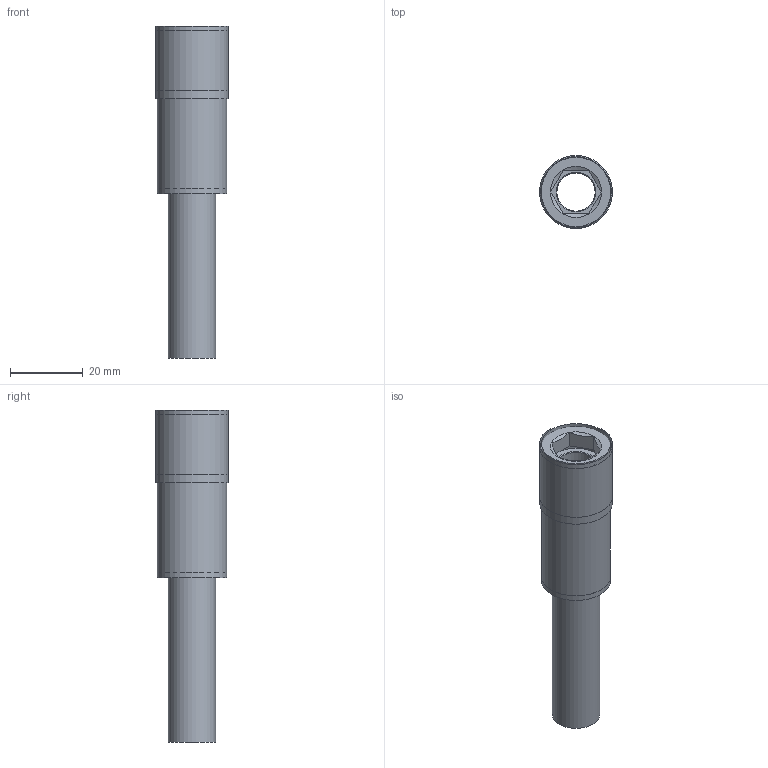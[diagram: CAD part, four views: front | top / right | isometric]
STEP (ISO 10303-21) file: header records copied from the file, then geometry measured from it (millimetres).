
FILE_DESCRIPTION(('STEP AP214'),'1');
FILE_NAME('LC-10SU-CON SEDE.stp','2025-10-28T12:41:57',(' '),(' '),'Spatial InterOp 3D',' ',' ');
FILE_SCHEMA(('AUTOMOTIVE_DESIGN { 1 0 10303 214 1 1 1 1 }'));
Length unit declared in the file: metre
Products named in the file (3): LC-10SU-SEDE; LC-10SU
Bounding box: 20 x 20 x 91.11 mm (x, y, z)
Volume: 8897.5 mm3; surface area: 10385.3 mm2
Topology: 1 solids, 3 shells, 28 faces, 63 edges, 43 vertices
Faces by surface type: plane 13, cylinder 8, cone 6, torus 1
Full cylindrical faces by diameter (mm): 10.5 x1, 13 x1, 14 x1, 14.5 x1, 18.9 x1, 19 x1, 20 x1
Entity records: 1222 total; most frequent: CARTESIAN_POINT 190, DIRECTION 124, ORIENTED_EDGE 80, STYLED_ITEM 67, PRESENTATION_STYLE_ASSIGNMENT 67, COLOUR_RGB 67, AXIS2_PLACEMENT_3D 55, EDGE_LOOP 49
